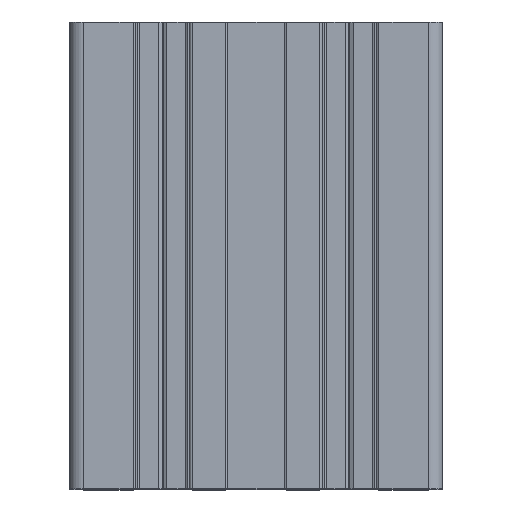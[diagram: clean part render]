
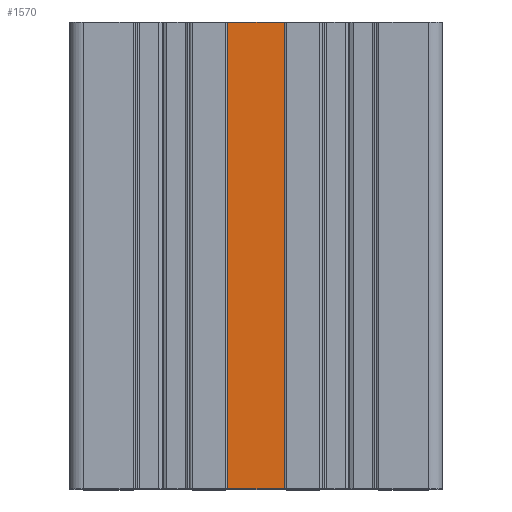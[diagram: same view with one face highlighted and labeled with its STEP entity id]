
A CAD part, top view. The second image highlights one B-rep face of the part: STEP entity #1570.
In plain terms, the highlighted planar face has unit normal (0, 0, 1).
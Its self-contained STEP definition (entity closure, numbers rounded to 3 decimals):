
#1570 = ADVANCED_FACE( '', ( #3887 ), #3888, .T. );
#3887 = FACE_OUTER_BOUND( '', #6978, .T. );
#3888 = PLANE( '', #6979 );
#6978 = EDGE_LOOP( '', ( #11383, #11384, #11385, #11386 ) );
#6979 = AXIS2_PLACEMENT_3D( '', #11387, #11388, #11389 );
#11383 = ORIENTED_EDGE( '', *, *, #20686, .F. );
#11384 = ORIENTED_EDGE( '', *, *, #20277, .F. );
#11385 = ORIENTED_EDGE( '', *, *, #20687, .T. );
#11386 = ORIENTED_EDGE( '', *, *, #20688, .T. );
#11387 = CARTESIAN_POINT( '', ( 6., 100., 79. ) );
#11388 = DIRECTION( '', ( 0., 0., 1. ) );
#11389 = DIRECTION( '', ( 0., -1., 0. ) );
#20277 = EDGE_CURVE( '', #24971, #24967, #24973, .T. );
#20686 = EDGE_CURVE( '', #24967, #25662, #25663, .T. );
#20687 = EDGE_CURVE( '', #24971, #25664, #25665, .T. );
#20688 = EDGE_CURVE( '', #25664, #25662, #25666, .T. );
#24967 = VERTEX_POINT( '', #31560 );
#24971 = VERTEX_POINT( '', #31566 );
#24973 = LINE( '', #31569, #31570 );
#25662 = VERTEX_POINT( '', #32489 );
#25663 = LINE( '', #32490, #32491 );
#25664 = VERTEX_POINT( '', #32492 );
#25665 = LINE( '', #32493, #32494 );
#25666 = LINE( '', #32495, #32496 );
#31560 = CARTESIAN_POINT( '', ( 6., 0., 79. ) );
#31566 = CARTESIAN_POINT( '', ( 6., 100., 79. ) );
#31569 = CARTESIAN_POINT( '', ( 6., 100., 79. ) );
#31570 = VECTOR( '', #38768, 1000. );
#32489 = CARTESIAN_POINT( '', ( -6., 0., 79. ) );
#32490 = CARTESIAN_POINT( '', ( 6., 0., 79. ) );
#32491 = VECTOR( '', #39263, 1000. );
#32492 = CARTESIAN_POINT( '', ( -6., 100., 79. ) );
#32493 = CARTESIAN_POINT( '', ( 6., 100., 79. ) );
#32494 = VECTOR( '', #39264, 1000. );
#32495 = CARTESIAN_POINT( '', ( -6., 100., 79. ) );
#32496 = VECTOR( '', #39265, 1000. );
#38768 = DIRECTION( '', ( 0., -1., 0. ) );
#39263 = DIRECTION( '', ( -1., 0., 0. ) );
#39264 = DIRECTION( '', ( -1., 0., 0. ) );
#39265 = DIRECTION( '', ( 0., -1., 0. ) );
